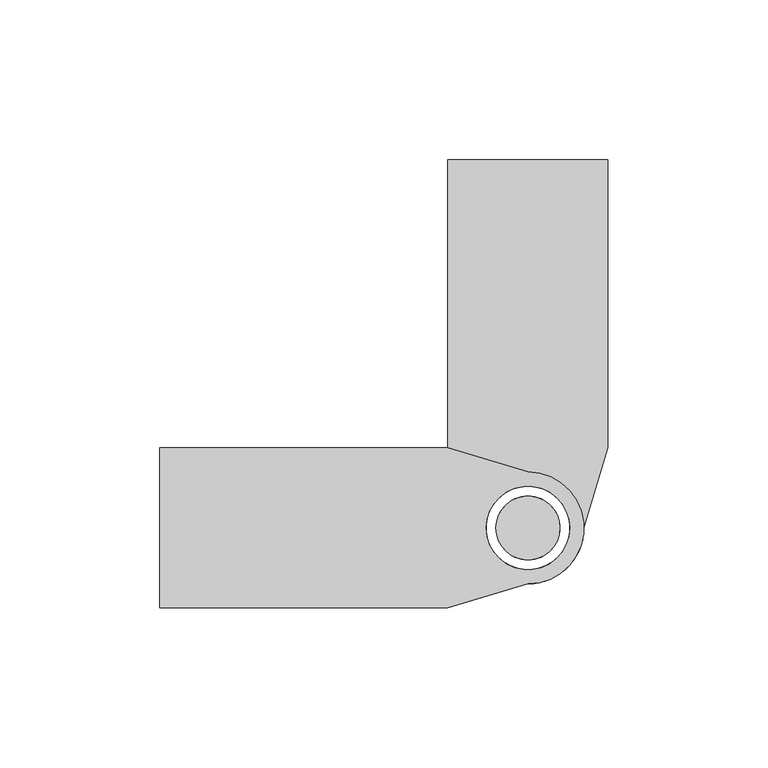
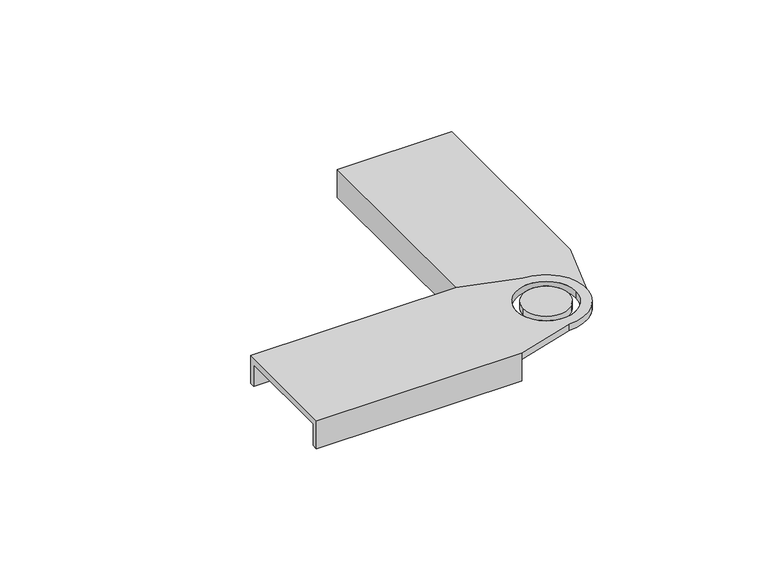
"""IFC4 building model written with IfcOpenShell, lengths in millimetres: cable carrier fitting geometry, BAKS_LD_BEND_Articulated connector_LG : LGT_H45."""

import ifcopenshell
import ifcopenshell.guid

model = None  # the IFC model being written
_history = None  # IfcOwnerHistory: only IFC2X3 demands one
_inside = {}  # id of a spatial element -> (the spatial element, [elements in it])
_under = {}  # id of a project, library or spatial element -> (it, [spatial elements below it])
_declared = {}  # id of a project -> (the project, [libraries it declares])
_typed = {}  # id of a type object -> (the type object, [elements of that type])
_made_of = {}  # id of a material, layer set ... -> (it, [elements and type objects made of it])


def new_model(schema):
    """Start an empty IFC model of exactly this schema.

    Asked for "IFC4X3", IfcOpenShell would pick the latest addendum, in which some entities
    have other attributes; the version numbers below select the first issue.
    IFC2X3 requires an IfcOwnerHistory on every rooted entity: one is made here for all.
    """
    global model, _history
    if schema == "IFC4X3":
        model = ifcopenshell.file(schema_version=(4, 3, 0, 0))
    else:
        model = ifcopenshell.file(schema=schema)
    _inside.clear()
    _under.clear()
    _declared.clear()
    _typed.clear()
    _made_of.clear()
    _history = None
    if model.schema == "IFC2X3":
        org = make("IfcOrganization", Name="unknown")
        user = make(
            "IfcPersonAndOrganization",
            ThePerson=make("IfcPerson", FamilyName="unknown"),
            TheOrganization=org,
        )
        app = make(
            "IfcApplication",
            ApplicationDeveloper=org,
            Version="unknown",
            ApplicationFullName="unknown",
            ApplicationIdentifier="unknown",
        )
        _history = make(
            "IfcOwnerHistory",
            OwningUser=user,
            OwningApplication=app,
            ChangeAction="ADDED",
            CreationDate=0,
        )
    return model


def make(cls, **values):
    """One entity of the class cls with the attributes given. An attribute that is None is left unset."""
    return model.create_entity(
        cls, **{name: value for name, value in values.items() if value is not None}
    )


def rooted(cls, **values):
    """An entity with a GlobalId (a new one), such as an element, a storey or a relation."""
    return make(cls, GlobalId=ifcopenshell.guid.new(), OwnerHistory=_history, **values)


def si_unit(unit_type, name, prefix=None):
    """IfcSIUnit, for example si_unit("LENGTHUNIT", "METRE", prefix="MILLI")."""
    return make("IfcSIUnit", UnitType=unit_type, Prefix=prefix, Name=name)


def assignment(units):
    """IfcUnitAssignment: the units of a project."""
    return None if units is None else make("IfcUnitAssignment", Units=units)


def point(xyz):
    """IfcCartesianPoint."""
    return None if xyz is None else make("IfcCartesianPoint", Coordinates=xyz)


def direction(xyz):
    """IfcDirection."""
    return None if xyz is None else make("IfcDirection", DirectionRatios=xyz)


def frame(location, z_axis=None, x_axis=None):
    """IfcAxis2Placement3D, a coordinate frame: its origin and axes. An axis left out is left unset."""
    return make(
        "IfcAxis2Placement3D",
        Location=point(location),
        Axis=direction(z_axis),
        RefDirection=direction(x_axis),
    )


def origin():
    """The frame at (0, 0, 0) with its axes left unset."""
    return frame((0.0, 0.0, 0.0))


def place(relative_to, where):
    """IfcLocalPlacement: puts the frame where relative to a parent placement (None: the world)."""
    return make(
        "IfcLocalPlacement", PlacementRelTo=relative_to, RelativePlacement=where
    )


def context(
    kind, dimensions, precision=None, world=None, true_north=None, identifier=None
):
    """IfcGeometricRepresentationContext, for example the 3D "Model" context."""
    return make(
        "IfcGeometricRepresentationContext",
        ContextIdentifier=identifier,
        ContextType=kind,
        CoordinateSpaceDimension=dimensions,
        Precision=precision,
        WorldCoordinateSystem=world,
        TrueNorth=true_north,
    )


def project(units=None, contexts=None):
    """IfcProject with its units and contexts."""
    return rooted(
        "IfcProject",
        Name="project",
        RepresentationContexts=contexts,
        UnitsInContext=assignment(units),
    )


def spatial(cls, under=None, at=None, **own):
    """A site, building, storey or space (cls), placed at a placement, below another one or the project."""
    s = rooted(cls, ObjectPlacement=at, **own)
    if under is not None:
        _under.setdefault(under.id(), (under, []))[1].append(s)
    return s


def polyline(points):
    """IfcPolyline through the points."""
    return make("IfcPolyline", Points=[point(p) for p in points])


def circle_curve(where, radius):
    """IfcCircle in the frame where."""
    return make("IfcCircle", Position=where, Radius=radius)


def shape(context_of_items, identifier, shape_type, items):
    """IfcShapeRepresentation: the items that make up one representation, for example the "Body"."""
    return make(
        "IfcShapeRepresentation",
        ContextOfItems=context_of_items,
        RepresentationIdentifier=identifier,
        RepresentationType=shape_type,
        Items=items,
    )


def source(mapping_origin, context_of_items, identifier, shape_type, items):
    """IfcRepresentationMap: a shape defined once, which mapped items show again and again."""
    return make(
        "IfcRepresentationMap",
        MappingOrigin=mapping_origin,
        MappedRepresentation=shape(context_of_items, identifier, shape_type, items),
    )


def transform(
    local_origin,
    x_axis=None,
    y_axis=None,
    z_axis=None,
    scale=None,
    scale2=None,
    scale3=None,
    uniform=True,
):
    """IfcCartesianTransformationOperator3D, or its non-uniform kind. x_axis, y_axis, z_axis: its Axis1, 2, 3."""
    if uniform:
        return make(
            "IfcCartesianTransformationOperator3D",
            Axis1=direction(x_axis),
            Axis2=direction(y_axis),
            LocalOrigin=point(local_origin),
            Scale=scale,
            Axis3=direction(z_axis),
        )
    return make(
        "IfcCartesianTransformationOperator3DnonUniform",
        Axis1=direction(x_axis),
        Axis2=direction(y_axis),
        LocalOrigin=point(local_origin),
        Scale=scale,
        Axis3=direction(z_axis),
        Scale2=scale2,
        Scale3=scale3,
    )


def mapped(mapping_source, mapping_target):
    """IfcMappedItem: shows the shape of a source again, moved by a transform."""
    return make(
        "IfcMappedItem", MappingSource=mapping_source, MappingTarget=mapping_target
    )


def made_of(thing, what):
    """Note that an element or type object is made of a material, layer set ...; save() writes the relation."""
    if what is not None:
        _made_of.setdefault(what.id(), (what, []))[1].append(thing)
    return thing


def element(
    cls,
    number,
    at=None,
    inside=None,
    cuts=None,
    type_object=None,
    material=None,
    context=None,
    identifier="Body",
    shape_type=None,
    held_by="IfcProductDefinitionShape",
    body=None,
    shapes=None,
    **own,
):
    """One element of the class cls, such as IfcWall. Its Tag is "e" and its number.

    at: its placement. inside: the storey or other place that contains it. cuts: it is an
    opening in that element (IfcRelVoidsElement). A single representation is given by context,
    identifier, shape_type and body (its items); several are given by shapes. held_by: the class
    of the entity that holds the representations. save() writes the other relations.
    """
    e = rooted(cls, Tag="e%d" % number, ObjectPlacement=at, **own)
    if body is not None:
        shapes = [shape(context, identifier, shape_type, body)]
    if shapes is not None:
        e.Representation = make(held_by, Representations=shapes)
    if inside is not None:
        _inside.setdefault(inside.id(), (inside, []))[1].append(e)
    if cuts is not None:
        rooted(
            "IfcRelVoidsElement", RelatingBuildingElement=cuts, RelatedOpeningElement=e
        )
    if type_object is not None:
        _typed.setdefault(type_object.id(), (type_object, []))[1].append(e)
    return made_of(e, material)


def aggregate(whole, parts):
    """IfcRelAggregates: a whole, such as a stair, and the parts it consists of."""
    return rooted("IfcRelAggregates", RelatingObject=whole, RelatedObjects=parts)


def save(model, path):
    """Write the relations noted so far, then the file.

    IfcRelAggregates (storeys below a building ...), IfcRelContainedInSpatialStructure (elements
    in a storey), IfcRelDefinesByType, IfcRelAssociatesMaterial and IfcRelDeclares: one each for
    every whole, place, type object, material and project.
    """
    for whole, parts in _under.values():
        aggregate(whole, parts)
    for where, things in _inside.values():
        rooted(
            "IfcRelContainedInSpatialStructure",
            RelatedElements=things,
            RelatingStructure=where,
        )
    for kind, things in _typed.values():
        rooted("IfcRelDefinesByType", RelatedObjects=things, RelatingType=kind)
    for what, things in _made_of.values():
        rooted("IfcRelAssociatesMaterial", RelatedObjects=things, RelatingMaterial=what)
    for by, libraries in _declared.values():
        rooted("IfcRelDeclares", RelatingContext=by, RelatedDefinitions=libraries)
    model.write(path)


def plane_surface(at):
    """IfcPlane: the flat surface through the origin of the frame at, square to its z axis."""
    return make("IfcPlane", Position=at)


def cylinder_surface(at, radius):
    """IfcCylindricalSurface: all points at the distance radius from the z axis of the frame at."""
    return make("IfcCylindricalSurface", Position=at, Radius=radius)


def revolved_surface(curve, axis_point, axis_direction):
    """IfcSurfaceOfRevolution: the curve turned about the line through axis_point along axis_direction."""
    return make(
        "IfcSurfaceOfRevolution",
        SweptCurve=make("IfcArbitraryOpenProfileDef", ProfileType="CURVE", Curve=curve),
        AxisPosition=make("IfcAxis1Placement", Location=point(axis_point), Axis=direction(axis_direction)),
    )


def advanced_brep(points, edges, surfaces, faces):
    """IfcAdvancedBrep: a solid bounded by faces that lie on surfaces and meet in shared edges.

    An edge is (start, end): straight between two places in points (the first is 0);
    or (start, end, curve); or (start, end, curve, False) where it runs against its curve.
    A face is (place in surfaces, loops), or (place, loops, False) where it looks against
    its surface's normal. A loop lists edges by number (the first is 1), with a minus sign
    where the edge is run from its end to its start. The first loop is the outer one.
    """
    corners = [point(p) for p in points]
    vertices = [make("IfcVertexPoint", VertexGeometry=c) for c in corners]
    made = []
    for start, end, *more in edges:
        made.append(
            make(
                "IfcEdgeCurve",
                EdgeStart=vertices[start],
                EdgeEnd=vertices[end],
                EdgeGeometry=more[0] if more else make("IfcPolyline", Points=[corners[start], corners[end]]),
                SameSense=more[1] if len(more) > 1 else True,
            )
        )
    hull = []
    for where, loops, *sense in faces:
        bounds = []
        for j, loop in enumerate(loops):
            ring = [make("IfcOrientedEdge", EdgeElement=made[abs(k) - 1], Orientation=k > 0) for k in loop]
            bounds.append(
                make(
                    "IfcFaceOuterBound" if j == 0 else "IfcFaceBound",
                    Bound=make("IfcEdgeLoop", EdgeList=ring),
                    Orientation=True,
                )
            )
        hull.append(make("IfcAdvancedFace", Bounds=bounds, FaceSurface=surfaces[where], SameSense=sense[0] if sense else True))
    return make("IfcAdvancedBrep", Outer=make("IfcClosedShell", CfsFaces=hull))


def cable_carrier_fitting_6c66d9f1(model_context):
    return source(origin(), model_context, "Body", "AdvancedBrep", [
        advanced_brep(
        [(-115.0, 25.0, 3.0), (-115.0, -25.0, 3.0), (-25.0, -25.0, 3.0), (0.0, -17.5, 3.0), (0.0, 17.5, 3.0), (-25.0, 25.0, 3.0), (13.0, 0.0, 3.0), (-13.0, 0.0, 3.0), (-25.0, -25.0, 0.0), (-25.0, -22.5, 0.0), (-115.0, -22.5, 0.0), (-115.0, 22.5, 0.0), (-25.0, 22.5, 0.0), (-25.0, 25.0, 0.0), (0.0, 17.5, 0.0), (0.0, -17.5, 0.0), (-13.0, 0.0, 0.0), (13.0, 0.0, 0.0), (-25.0, 25.0, -10.0), (-115.0, 25.0, -10.0), (-115.0, -25.0, -10.0), (-25.0, -25.0, -10.0), (-115.0, 22.5, -10.0), (-115.0, -22.5, -10.0), (-25.0, -22.5, -10.0), (-25.0, 22.5, -10.0)],
        [
            (0, 1),
            (1, 2),
            (2, 3),
            (3, 4, circle_curve(frame((0.0, 0.0, 3.0), z_axis=(0.0, 0.0, 1.0), x_axis=(-1.0, 0.0, 0.0)), 17.5)),
            (4, 5),
            (5, 0),
            (6, 7, circle_curve(frame((0.0, 0.0, 3.0), z_axis=(0.0, 0.0, -1.0), x_axis=(-1.0, 0.0, 0.0)), 13.0)),
            (7, 6, circle_curve(frame((0.0, 0.0, 3.0), z_axis=(0.0, 0.0, -1.0), x_axis=(-1.0, 0.0, 0.0)), 13.0)),
            (8, 9),
            (9, 10),
            (10, 11),
            (11, 12),
            (12, 13),
            (13, 14),
            (14, 15, circle_curve(frame((0.0, 0.0, 0.0), z_axis=(0.0, 0.0, -1.0), x_axis=(-1.0, 0.0, 0.0)), 17.5)),
            (15, 8),
            (16, 17, circle_curve(frame((0.0, 0.0, 0.0), z_axis=(0.0, 0.0, 1.0), x_axis=(-1.0, 0.0, 0.0)), 13.0)),
            (17, 16, circle_curve(frame((0.0, 0.0, 0.0), z_axis=(0.0, 0.0, 1.0), x_axis=(-1.0, 0.0, 0.0)), 13.0)),
            (5, 13),
            (13, 18),
            (18, 19),
            (19, 0),
            (1, 20),
            (20, 21),
            (21, 8),
            (8, 2),
            (19, 22),
            (22, 11),
            (10, 23),
            (23, 20),
            (7, 16),
            (17, 6),
            (4, 14),
            (3, 15),
            (23, 24),
            (24, 21),
            (9, 24),
            (18, 25),
            (25, 22),
            (12, 25),
        ],
        [
            plane_surface(frame((-25.0, 25.0, 3.0), z_axis=(0.0, 0.0, 1.0), x_axis=(1.0, 0.0, 0.0))),
            plane_surface(frame((-25.0, 25.0, 0.0), z_axis=(0.0, 0.0, -1.0), x_axis=(-1.0, 0.0, 0.0))),
            plane_surface(frame((-115.0, 25.0, 3.0), z_axis=(0.0, 1.0, 0.0), x_axis=(0.0, 0.0, -1.0))),
            plane_surface(frame((-25.0, -25.0, 3.0), z_axis=(0.0, -1.0, 0.0), x_axis=(0.0, 0.0, -1.0))),
            plane_surface(frame((-115.0, -25.0, 3.0), z_axis=(-1.0, 0.0, 0.0), x_axis=(0.0, 0.0, -1.0))),
            revolved_surface(polyline([(-13.0, 0.0, 3.0), (-13.0, 0.0, 0.0)]), (0.0, 0.0, 0.0), (0.0, 0.0, 1.0)),
            plane_surface(frame((-25.0, 25.0, 3.0), z_axis=(0.28734788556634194, 0.9578262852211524, 0.0), x_axis=(0.0, 0.0, -1.0))),
            cylinder_surface(frame((0.0, 0.0, 0.0), z_axis=(0.0, 0.0, 1.0), x_axis=(-1.0, 0.0, 0.0)), 17.5),
            plane_surface(frame((0.0, -17.5, 3.0), z_axis=(0.2873478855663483, -0.9578262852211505, 0.0), x_axis=(0.0, 0.0, -1.0))),
            plane_surface(frame((-25.0, -22.5, -10.0), z_axis=(0.0, 0.0, -1.0), x_axis=(-1.0, 0.0, 0.0))),
            plane_surface(frame((-115.0, -22.5, 0.0), z_axis=(0.0, 1.0, 0.0), x_axis=(0.0, 0.0, -1.0))),
            plane_surface(frame((-25.0, -22.5, 0.0), z_axis=(1.0, 0.0, 0.0), x_axis=(0.0, 0.0, -1.0))),
            plane_surface(frame((-25.0, 25.0, -10.0), z_axis=(0.0, 0.0, -1.0), x_axis=(-1.0, 0.0, 0.0))),
            plane_surface(frame((-25.0, 25.0, 0.0), z_axis=(1.0, 0.0, 0.0), x_axis=(0.0, 0.0, -1.0))),
            plane_surface(frame((-25.0, 22.5, 0.0), z_axis=(0.0, -1.0, 0.0), x_axis=(0.0, 0.0, -1.0))),
        ],
        [
            (0, [[1, 2, 3, 4, 5, 6], [7, 8]]),
            (1, [[9, 10, 11, 12, 13, 14, 15, 16], [17, 18]]),
            (2, [[19, 20, 21, 22, -6]]),
            (3, [[23, 24, 25, 26, -2]]),
            (4, [[27, 28, -11, 29, 30, -23, -1, -22]]),
            (5, [[-8, 31, -18, 32]]),
            (5, [[-17, -31, -7, -32]]),
            (6, [[33, -14, -19, -5]]),
            (7, [[34, -15, -33, -4]]),
            (8, [[-26, -16, -34, -3]]),
            (9, [[35, 36, -24, -30]]),
            (10, [[-29, -10, 37, -35]]),
            (11, [[-37, -9, -25, -36]]),
            (12, [[-21, 38, 39, -27]]),
            (13, [[-20, -13, 40, -38]]),
            (14, [[-40, -12, -28, -39]]),
        ],
    ),
        advanced_brep(
        [(10.0, 0.0, 3.0), (-10.0, 0.0, 3.0), (-10.0, 0.0, 0.0), (10.0, 0.0, 0.0)],
        [
            (0, 1, circle_curve(frame((0.0, 0.0, 3.0), z_axis=(0.0, 0.0, 1.0), x_axis=(-1.0, 0.0, 0.0)), 10.0)),
            (1, 0, circle_curve(frame((0.0, 0.0, 3.0), z_axis=(0.0, 0.0, 1.0), x_axis=(-1.0, 0.0, 0.0)), 10.0)),
            (2, 3, circle_curve(frame((0.0, 0.0, 0.0), z_axis=(0.0, 0.0, -1.0), x_axis=(-1.0, 0.0, 0.0)), 10.0)),
            (3, 2, circle_curve(frame((0.0, 0.0, 0.0), z_axis=(0.0, 0.0, -1.0), x_axis=(-1.0, 0.0, 0.0)), 10.0)),
            (1, 2),
            (3, 0),
        ],
        [
            plane_surface(frame((-25.0, 25.0, 3.0), z_axis=(0.0, 0.0, 1.0), x_axis=(1.0, 0.0, 0.0))),
            plane_surface(frame((-25.0, 25.0, 0.0), z_axis=(0.0, 0.0, -1.0), x_axis=(-1.0, 0.0, 0.0))),
            cylinder_surface(frame((0.0, 0.0, 0.0), z_axis=(0.0, 0.0, -1.0), x_axis=(-1.0, 0.0, 0.0)), 10.0),
        ],
        [
            (0, [[1, 2]]),
            (1, [[3, 4]]),
            (2, [[-2, 5, -4, 6]]),
            (2, [[-3, -5, -1, -6]]),
        ],
    ),
        advanced_brep(
        [(-25.0, 115.0, 3.0), (-25.0, 25.0, 3.0), (-17.5, 0.0, 3.0), (17.5, 0.0, 3.0), (25.0, 25.0, 3.0), (25.0, 115.0, 3.0), (0.0, -13.0, 3.0), (0.0, 13.0, 3.0), (25.0, 25.0, 0.0), (17.5, 0.0, 0.0), (-17.5, 0.0, 0.0), (-25.0, 25.0, 0.0), (-22.5, 25.0, 0.0), (-22.5, 115.0, 0.0), (22.5, 115.0, 0.0), (22.5, 25.0, 0.0), (0.0, 13.0, 0.0), (0.0, -13.0, 0.0), (-25.0, 115.0, -10.0), (-25.0, 25.0, -10.0), (25.0, 25.0, -10.0), (25.0, 115.0, -10.0), (22.5, 115.0, -10.0), (-22.5, 115.0, -10.0), (22.5, 25.0, -10.0), (-22.5, 25.0, -10.0)],
        [
            (0, 1),
            (1, 2),
            (2, 3, circle_curve(frame((0.0, 0.0, 3.0), z_axis=(0.0, 0.0, 1.0), x_axis=(0.0, 1.0, 0.0)), 17.5)),
            (3, 4),
            (4, 5),
            (5, 0),
            (6, 7, circle_curve(frame((0.0, 0.0, 3.0), z_axis=(0.0, 0.0, -1.0), x_axis=(0.0, 1.0, 0.0)), 13.0)),
            (7, 6, circle_curve(frame((0.0, 0.0, 3.0), z_axis=(0.0, 0.0, -1.0), x_axis=(0.0, 1.0, 0.0)), 13.0)),
            (8, 9),
            (9, 10, circle_curve(frame((0.0, 0.0, 0.0), z_axis=(0.0, 0.0, -1.0), x_axis=(0.0, 1.0, 0.0)), 17.5)),
            (10, 11),
            (11, 12),
            (12, 13),
            (13, 14),
            (14, 15),
            (15, 8),
            (16, 17, circle_curve(frame((0.0, 0.0, 0.0), z_axis=(0.0, 0.0, 1.0), x_axis=(0.0, 1.0, 0.0)), 13.0)),
            (17, 16, circle_curve(frame((0.0, 0.0, 0.0), z_axis=(0.0, 0.0, 1.0), x_axis=(0.0, 1.0, 0.0)), 13.0)),
            (0, 18),
            (18, 19),
            (19, 11),
            (11, 1),
            (4, 8),
            (8, 20),
            (20, 21),
            (21, 5),
            (21, 22),
            (22, 14),
            (13, 23),
            (23, 18),
            (6, 17),
            (16, 7),
            (10, 2),
            (9, 3),
            (20, 24),
            (24, 22),
            (24, 15),
            (23, 25),
            (25, 19),
            (25, 12),
        ],
        [
            plane_surface(frame((-25.0, 25.0, 3.0), z_axis=(0.0, 0.0, 1.0), x_axis=(0.0, -1.0, 0.0))),
            plane_surface(frame((-25.0, 25.0, 0.0), z_axis=(0.0, 0.0, -1.0), x_axis=(0.0, 1.0, 0.0))),
            plane_surface(frame((-25.0, 115.0, 3.0), z_axis=(-1.0, 0.0, 0.0), x_axis=(0.0, 0.0, -1.0))),
            plane_surface(frame((25.0, 25.0, 3.0), z_axis=(1.0, 0.0, 0.0), x_axis=(0.0, 0.0, -1.0))),
            plane_surface(frame((25.0, 115.0, 3.0), z_axis=(0.0, 1.0, 0.0), x_axis=(0.0, 0.0, -1.0))),
            revolved_surface(polyline([(0.0, 13.0, 3.0), (0.0, 13.0, 0.0)]), (0.0, 0.0, 0.0), (0.0, 0.0, 1.0)),
            plane_surface(frame((-25.0, 25.0, 3.0), z_axis=(-0.9578262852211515, -0.287347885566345, 0.0), x_axis=(0.0, 0.0, -1.0))),
            cylinder_surface(frame((0.0, 0.0, 0.0), z_axis=(0.0, 0.0, 1.0), x_axis=(0.0, 1.0, 0.0)), 17.5),
            plane_surface(frame((17.5, 0.0, 3.0), z_axis=(0.9578262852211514, -0.2873478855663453, 0.0), x_axis=(0.0, 0.0, -1.0))),
            plane_surface(frame((22.5, 25.0, -10.0), z_axis=(0.0, 0.0, -1.0), x_axis=(0.0, 1.0, 0.0))),
            plane_surface(frame((22.5, 115.0, 0.0), z_axis=(-1.0, 0.0, 0.0), x_axis=(0.0, 0.0, -1.0))),
            plane_surface(frame((22.5, 25.0, 0.0), z_axis=(0.0, -1.0, 0.0), x_axis=(0.0, 0.0, -1.0))),
            plane_surface(frame((-25.0, 25.0, -10.0), z_axis=(0.0, 0.0, -1.0), x_axis=(0.0, 1.0, 0.0))),
            plane_surface(frame((-25.0, 25.0, 0.0), z_axis=(0.0, -1.0, 0.0), x_axis=(0.0, 0.0, -1.0))),
            plane_surface(frame((-22.5, 25.0, 0.0), z_axis=(1.0, 0.0, 0.0), x_axis=(0.0, 0.0, -1.0))),
        ],
        [
            (0, [[1, 2, 3, 4, 5, 6], [7, 8]]),
            (1, [[9, 10, 11, 12, 13, 14, 15, 16], [17, 18]]),
            (2, [[-1, 19, 20, 21, 22]]),
            (3, [[-5, 23, 24, 25, 26]]),
            (4, [[-19, -6, -26, 27, 28, -14, 29, 30]]),
            (5, [[31, -17, 32, -7]]),
            (5, [[-31, -8, -32, -18]]),
            (6, [[-2, -22, -11, 33]]),
            (7, [[-3, -33, -10, 34]]),
            (8, [[-4, -34, -9, -23]]),
            (9, [[-27, -25, 35, 36]]),
            (10, [[-36, 37, -15, -28]]),
            (11, [[-35, -24, -16, -37]]),
            (12, [[-30, 38, 39, -20]]),
            (13, [[-39, 40, -12, -21]]),
            (14, [[-38, -29, -13, -40]]),
        ],
    ),
        advanced_brep(
        [(0.0, -10.0, 3.0), (0.0, 10.0, 3.0), (0.0, 10.0, 0.0), (0.0, -10.0, 0.0)],
        [
            (0, 1, circle_curve(frame((0.0, 0.0, 3.0), z_axis=(0.0, 0.0, 1.0), x_axis=(0.0, 1.0, 0.0)), 10.0)),
            (1, 0, circle_curve(frame((0.0, 0.0, 3.0), z_axis=(0.0, 0.0, 1.0), x_axis=(0.0, 1.0, 0.0)), 10.0)),
            (2, 3, circle_curve(frame((0.0, 0.0, 0.0), z_axis=(0.0, 0.0, -1.0), x_axis=(0.0, 1.0, 0.0)), 10.0)),
            (3, 2, circle_curve(frame((0.0, 0.0, 0.0), z_axis=(0.0, 0.0, -1.0), x_axis=(0.0, 1.0, 0.0)), 10.0)),
            (0, 3),
            (2, 1),
        ],
        [
            plane_surface(frame((-25.0, 25.0, 3.0), z_axis=(0.0, 0.0, 1.0), x_axis=(0.0, -1.0, 0.0))),
            plane_surface(frame((-25.0, 25.0, 0.0), z_axis=(0.0, 0.0, -1.0), x_axis=(0.0, 1.0, 0.0))),
            cylinder_surface(frame((0.0, 0.0, 0.0), z_axis=(0.0, 0.0, -1.0), x_axis=(0.0, 1.0, 0.0)), 10.0),
        ],
        [
            (0, [[1, 2]]),
            (1, [[3, 4]]),
            (2, [[5, -3, 6, -1]]),
            (2, [[-5, -2, -6, -4]]),
        ],
    ),
    ])


if __name__ == "__main__":
    model = new_model("IFC4")
    model_context = context("Model", 3, world=origin())
    ifc_project = project(units=[si_unit("LENGTHUNIT", "METRE", prefix="MILLI")], contexts=[model_context])
    site = spatial("IfcSite", under=ifc_project)
    building = spatial("IfcBuilding", under=site)
    placement = place(None, origin())
    cable_carrier_fitting_shape = cable_carrier_fitting_6c66d9f1(model_context)
    element("IfcCableCarrierFitting", 1, ObjectType="BAKS_LD_BEND_Articulated connector_LG : LGT_H45", at=placement, inside=building, context=model_context, shape_type="MappedRepresentation", body=[
        mapped(cable_carrier_fitting_shape, transform((0.0, 0.0, 0.0), x_axis=(1.0, 0.0, 0.0), y_axis=(0.0, 1.0, 0.0), z_axis=(0.0, 0.0, 1.0))),
    ])
    save(model, "model.ifc")
